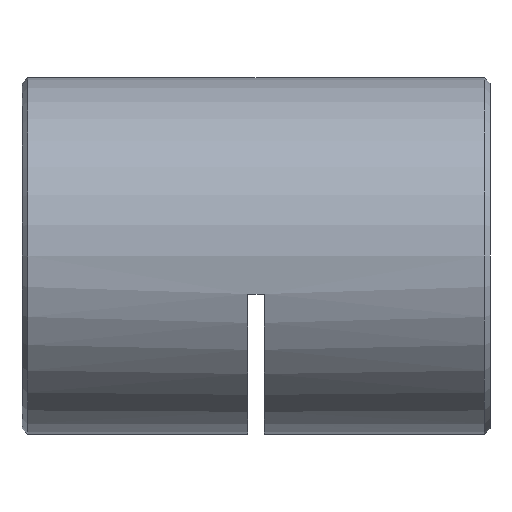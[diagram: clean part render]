
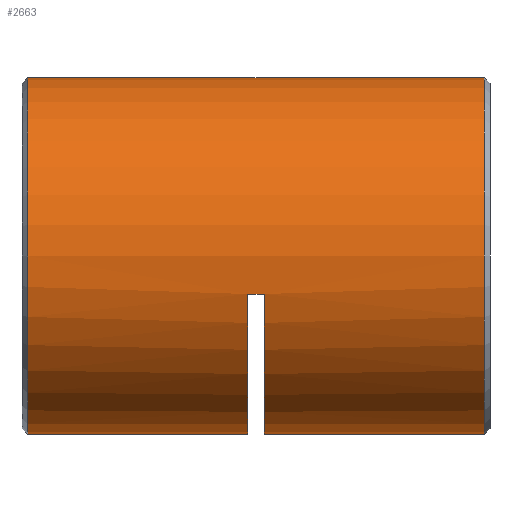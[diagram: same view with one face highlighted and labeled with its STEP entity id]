
A CAD part, left-side view. The second image highlights one B-rep face of the part: STEP entity #2663.
In plain terms, the highlighted cylindrical face has radius 16 mm (diameter 32 mm), a partial arc.
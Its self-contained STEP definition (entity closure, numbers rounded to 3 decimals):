
#21 = ORIENTED_EDGE ( 'NONE', *, *, #6207, .F. ) ;
#54 = VERTEX_POINT ( 'NONE', #2602 ) ;
#89 = CARTESIAN_POINT ( 'NONE',  ( 0., 42.5, 16. ) ) ;
#117 = AXIS2_PLACEMENT_3D ( 'NONE', #229, #5145, #3646 ) ;
#229 = CARTESIAN_POINT ( 'NONE',  ( 0., 42.5, 0. ) ) ;
#346 = CARTESIAN_POINT ( 'NONE',  ( 0., 22., 0. ) ) ;
#448 = DIRECTION ( 'NONE',  ( 0., -1., 0. ) ) ;
#567 = DIRECTION ( 'NONE',  ( 0., -1., 0. ) ) ;
#649 = VERTEX_POINT ( 'NONE', #3482 ) ;
#663 = EDGE_CURVE ( 'NONE', #2703, #5658, #4701, .T. ) ;
#713 = ORIENTED_EDGE ( 'NONE', *, *, #6024, .T. ) ;
#758 = EDGE_CURVE ( 'NONE', #649, #5658, #2899, .T. ) ;
#798 = EDGE_LOOP ( 'NONE', ( #2136, #1589, #713, #21, #5647, #4625, #1249, #3727 ) ) ;
#818 = DIRECTION ( 'NONE',  ( 0., 0., -1. ) ) ;
#879 = LINE ( 'NONE', #4880, #2155 ) ;
#919 = AXIS2_PLACEMENT_3D ( 'NONE', #346, #5780, #818 ) ;
#926 = AXIS2_PLACEMENT_3D ( 'NONE', #4227, #2271, #5750 ) ;
#1214 = DIRECTION ( 'NONE',  ( 0., 1., 0. ) ) ;
#1249 = ORIENTED_EDGE ( 'NONE', *, *, #1637, .T. ) ;
#1299 = CARTESIAN_POINT ( 'NONE',  ( 0., 0.75, 16. ) ) ;
#1483 = CARTESIAN_POINT ( 'NONE',  ( 0., 42.5, -16. ) ) ;
#1540 = DIRECTION ( 'NONE',  ( 0., 0., -1. ) ) ;
#1570 = CYLINDRICAL_SURFACE ( 'NONE', #117, 16. ) ;
#1585 = EDGE_CURVE ( 'NONE', #4746, #2540, #5840, .T. ) ;
#1589 = ORIENTED_EDGE ( 'NONE', *, *, #2385, .T. ) ;
#1637 = EDGE_CURVE ( 'NONE', #2540, #649, #5358, .T. ) ;
#1773 = VECTOR ( 'NONE', #3505, 1000. ) ;
#1793 = DIRECTION ( 'NONE',  ( 0., -1., 0. ) ) ;
#1851 = CARTESIAN_POINT ( 'NONE',  ( 0., 22., -16. ) ) ;
#2037 = EDGE_CURVE ( 'NONE', #54, #4746, #3272, .T. ) ;
#2136 = ORIENTED_EDGE ( 'NONE', *, *, #663, .F. ) ;
#2155 = VECTOR ( 'NONE', #5446, 1000. ) ;
#2174 = FACE_OUTER_BOUND ( 'NONE', #798, .T. ) ;
#2271 = DIRECTION ( 'NONE',  ( 0., -1., 0. ) ) ;
#2385 = EDGE_CURVE ( 'NONE', #2703, #5396, #3266, .T. ) ;
#2540 = VERTEX_POINT ( 'NONE', #3532 ) ;
#2602 = CARTESIAN_POINT ( 'NONE',  ( -15.632, 22., -3.413 ) ) ;
#2619 = CARTESIAN_POINT ( 'NONE',  ( 0., 0.75, 0. ) ) ;
#2663 = ADVANCED_FACE ( 'NONE', ( #2174 ), #1570, .T. ) ;
#2703 = VERTEX_POINT ( 'NONE', #5214 ) ;
#2899 = CIRCLE ( 'NONE', #5707, 16. ) ;
#3171 = CIRCLE ( 'NONE', #919, 16. ) ;
#3266 = CIRCLE ( 'NONE', #5961, 16. ) ;
#3272 = LINE ( 'NONE', #4675, #5759 ) ;
#3482 = CARTESIAN_POINT ( 'NONE',  ( 0., 0.75, -16. ) ) ;
#3505 = DIRECTION ( 'NONE',  ( 0., -1., 0. ) ) ;
#3532 = CARTESIAN_POINT ( 'NONE',  ( 0., 20.5, -16. ) ) ;
#3542 = CARTESIAN_POINT ( 'NONE',  ( 0., 41.75, 0. ) ) ;
#3646 = DIRECTION ( 'NONE',  ( 0., 0., -1. ) ) ;
#3727 = ORIENTED_EDGE ( 'NONE', *, *, #758, .T. ) ;
#3885 = VECTOR ( 'NONE', #448, 1000. ) ;
#4227 = CARTESIAN_POINT ( 'NONE',  ( 0., 20.5, 0. ) ) ;
#4625 = ORIENTED_EDGE ( 'NONE', *, *, #1585, .T. ) ;
#4655 = CARTESIAN_POINT ( 'NONE',  ( -15.632, 20.5, -3.413 ) ) ;
#4675 = CARTESIAN_POINT ( 'NONE',  ( -15.632, 21.25, -3.413 ) ) ;
#4701 = LINE ( 'NONE', #89, #1773 ) ;
#4746 = VERTEX_POINT ( 'NONE', #4655 ) ;
#4880 = CARTESIAN_POINT ( 'NONE',  ( 0., 42.5, -16. ) ) ;
#5145 = DIRECTION ( 'NONE',  ( 0., -1., 0. ) ) ;
#5214 = CARTESIAN_POINT ( 'NONE',  ( 0., 41.75, 16. ) ) ;
#5252 = VERTEX_POINT ( 'NONE', #1851 ) ;
#5358 = LINE ( 'NONE', #1483, #3885 ) ;
#5396 = VERTEX_POINT ( 'NONE', #5523 ) ;
#5446 = DIRECTION ( 'NONE',  ( 0., -1., 0. ) ) ;
#5523 = CARTESIAN_POINT ( 'NONE',  ( 0., 41.75, -16. ) ) ;
#5647 = ORIENTED_EDGE ( 'NONE', *, *, #2037, .T. ) ;
#5658 = VERTEX_POINT ( 'NONE', #1299 ) ;
#5707 = AXIS2_PLACEMENT_3D ( 'NONE', #2619, #1214, #6084 ) ;
#5750 = DIRECTION ( 'NONE',  ( 0., 0., -1. ) ) ;
#5759 = VECTOR ( 'NONE', #1793, 1000. ) ;
#5780 = DIRECTION ( 'NONE',  ( 0., -1., 0. ) ) ;
#5840 = CIRCLE ( 'NONE', #926, 16. ) ;
#5961 = AXIS2_PLACEMENT_3D ( 'NONE', #3542, #567, #1540 ) ;
#6024 = EDGE_CURVE ( 'NONE', #5396, #5252, #879, .T. ) ;
#6084 = DIRECTION ( 'NONE',  ( 0., 0., 1. ) ) ;
#6207 = EDGE_CURVE ( 'NONE', #54, #5252, #3171, .T. ) ;
